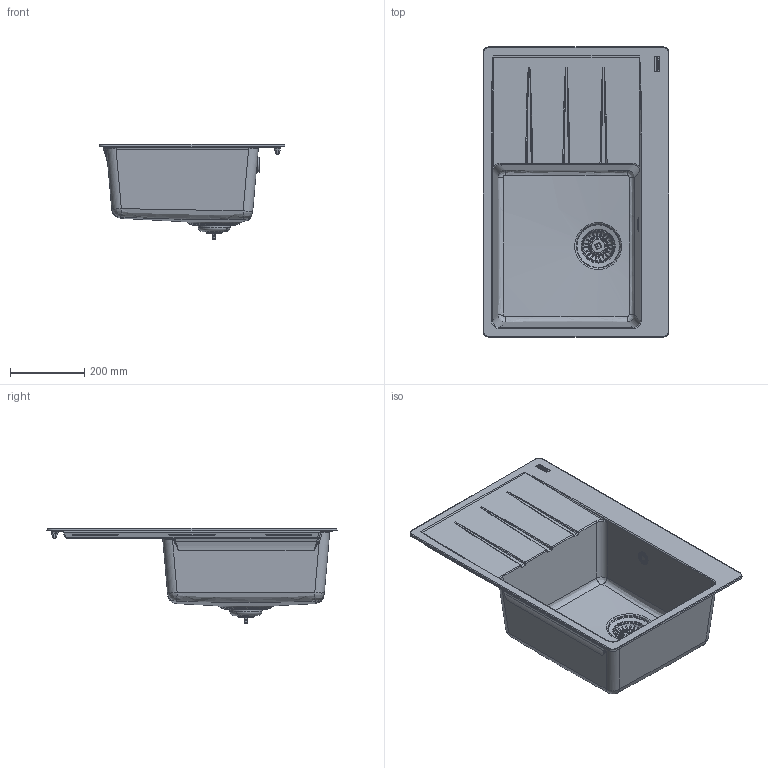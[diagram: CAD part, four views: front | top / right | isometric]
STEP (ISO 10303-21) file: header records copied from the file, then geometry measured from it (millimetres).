
FILE_DESCRIPTION(/* description */ (''),/* implementation_level */ '2;1');
FILE_NAME(/* name */ '3D001_Sinks_Centro_CNG-611-62-LHD',/* time_stamp */ '2024-03-13T17:09:38+01:00',/* author */ (''),/* organization */ (''),/* preprocessor_version */ 'ST-DEVELOPER v19.2',/* originating_system */ 'Rhino 8.4',/* authorisation */ '');
FILE_SCHEMA (('CONFIG_CONTROL_DESIGN'));
Length unit declared in the file: millimetre
Products named in the file (1): Document
Bounding box: 500 x 780 x 256.29 mm (x, y, z)
Volume: 5057770.5 mm3; surface area: 1422645.4 mm2
Topology: 18 solids, 19 shells, 1902 faces, 5059 edges, 3155 vertices
Faces by surface type: bspline 810, plane 581, cylinder 511
Full cylindrical faces by diameter (mm): 3.242 x1, 4 x1, 4.5 x1, 4.7 x1, 4.85 x1, 5.2 x1, 5.25 x1, 5.85 x2, 6 x1, 6.2 x1, 8 x1, 8.25 x1, 12.6 x1, 13.743 x1, 14.3 x1, 17.853 x1, 27.5 x1, 28 x7, 31 x1, 33 x2, 36 x1, 36.5 x2, 38 x5, 39.5 x1, 42 x5, 47 x1, 84 x1
Entity records: 103262 total; most frequent: CARTESIAN_POINT 59801, ORIENTED_EDGE 10012, DIRECTION 5084, EDGE_CURVE 5008, VERTEX_POINT 3155, AXIS2_PLACEMENT_3D 3088, B_SPLINE_CURVE_WITH_KNOTS 2833, EDGE_LOOP 2006
